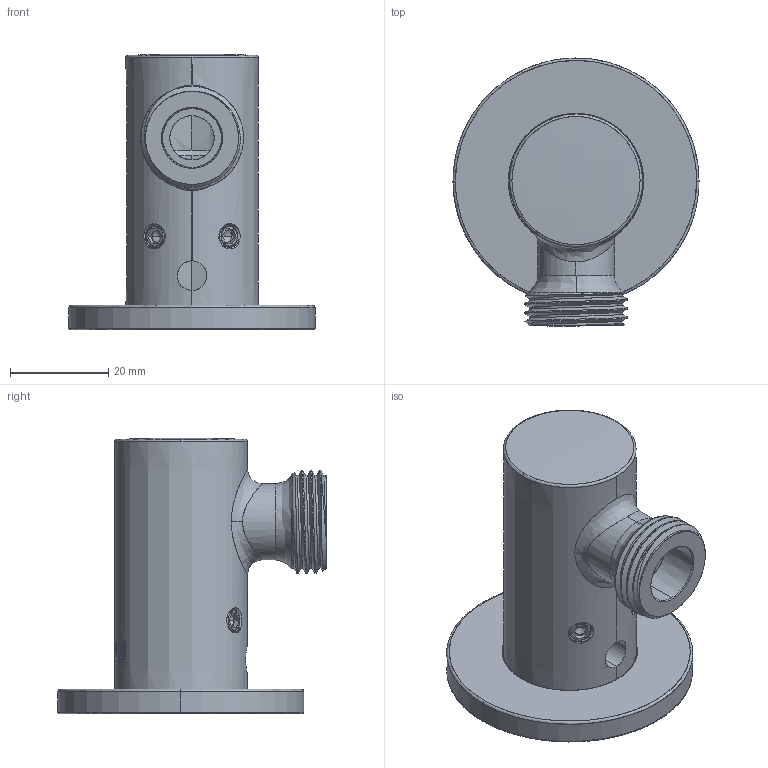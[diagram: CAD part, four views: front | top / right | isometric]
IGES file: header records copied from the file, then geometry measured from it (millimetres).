
Start section: SolidWorks IGES file using analytic representation for surfaces
Global section: file name: C:\Users\ccai\Desktop\CeliaC\Projects\0731-ADHOC-02292 Netural Files\000sku_R742SERIES_\sku_r742series_igs.IGS; native system: SolidWorks 2023; preprocessor: SolidWorks 2023; author: ccai; date: 240723.145912; units: inch
Bounding box: 50 x 54.5 x 56 mm (x, y, z)
Surface area: 16645.7 mm2 (no closed solid volume)
Topology: 0 solids, 0 shells, 280 faces, 4248 edges, 4240 vertices
Faces by surface type: bspline 147, revolution 133
